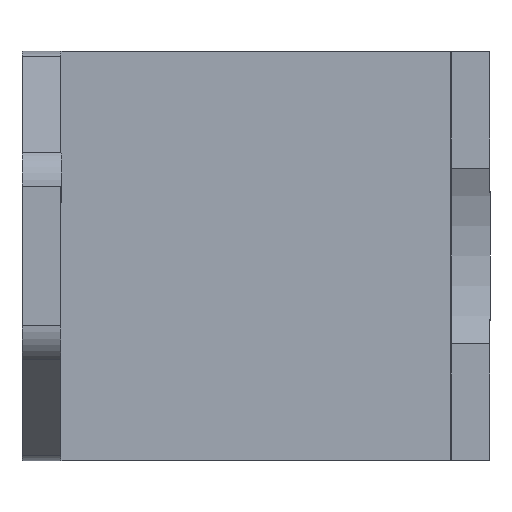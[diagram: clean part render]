
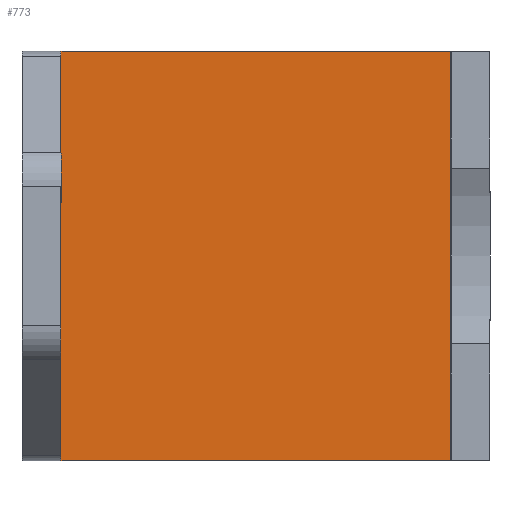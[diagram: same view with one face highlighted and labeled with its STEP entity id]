
A CAD part, front view. The second image highlights one B-rep face of the part: STEP entity #773.
In plain terms, the highlighted planar face has unit normal (0, -1, 0).
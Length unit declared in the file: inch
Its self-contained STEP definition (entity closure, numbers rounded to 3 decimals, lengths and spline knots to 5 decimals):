
#158=CARTESIAN_POINT('',(1.375,-0.125,0.0));
#159=VERTEX_POINT('',#158);
#166=CARTESIAN_POINT('',(1.375,-0.125,-1.3125));
#167=VERTEX_POINT('',#166);
#168=CARTESIAN_POINT('',(1.375,-0.125,0.0));
#169=DIRECTION('',(0.0,0.0,-1.0));
#170=VECTOR('',#169,1.3125);
#171=LINE('',#168,#170);
#172=EDGE_CURVE('',#159,#167,#171,.T.);
#369=CARTESIAN_POINT('',(0.125,-0.125,-1.3125));
#370=VERTEX_POINT('',#369);
#371=CARTESIAN_POINT('',(0.125,-0.125,-1.3125));
#372=DIRECTION('',(1.0,0.0,0.0));
#373=VECTOR('',#372,1.25);
#374=LINE('',#371,#373);
#375=EDGE_CURVE('',#370,#167,#374,.T.);
#605=CARTESIAN_POINT('',(0.125,-0.125,0.0));
#606=VERTEX_POINT('',#605);
#613=CARTESIAN_POINT('',(0.125,-0.125,0.0));
#614=DIRECTION('',(1.0,0.0,0.0));
#615=VECTOR('',#614,1.25);
#616=LINE('',#613,#615);
#617=EDGE_CURVE('',#606,#159,#616,.T.);
#737=CARTESIAN_POINT('',(0.125,-0.125,0.0));
#738=DIRECTION('',(0.0,0.0,-1.0));
#739=VECTOR('',#738,1.3125);
#740=LINE('',#737,#739);
#741=EDGE_CURVE('',#606,#370,#740,.T.);
#762=CARTESIAN_POINT('',(0.125,-0.125,0.0));
#763=DIRECTION('',(0.0,-1.0,0.0));
#764=DIRECTION('',(0.0,0.0,-1.0));
#765=AXIS2_PLACEMENT_3D('',#762,#763,#764);
#766=PLANE('',#765);
#767=ORIENTED_EDGE('',*,*,#375,.T.);
#768=ORIENTED_EDGE('',*,*,#172,.F.);
#769=ORIENTED_EDGE('',*,*,#617,.F.);
#770=ORIENTED_EDGE('',*,*,#741,.T.);
#771=EDGE_LOOP('',(#767,#768,#769,#770));
#772=FACE_OUTER_BOUND('',#771,.T.);
#773=ADVANCED_FACE('',(#772),#766,.T.);
